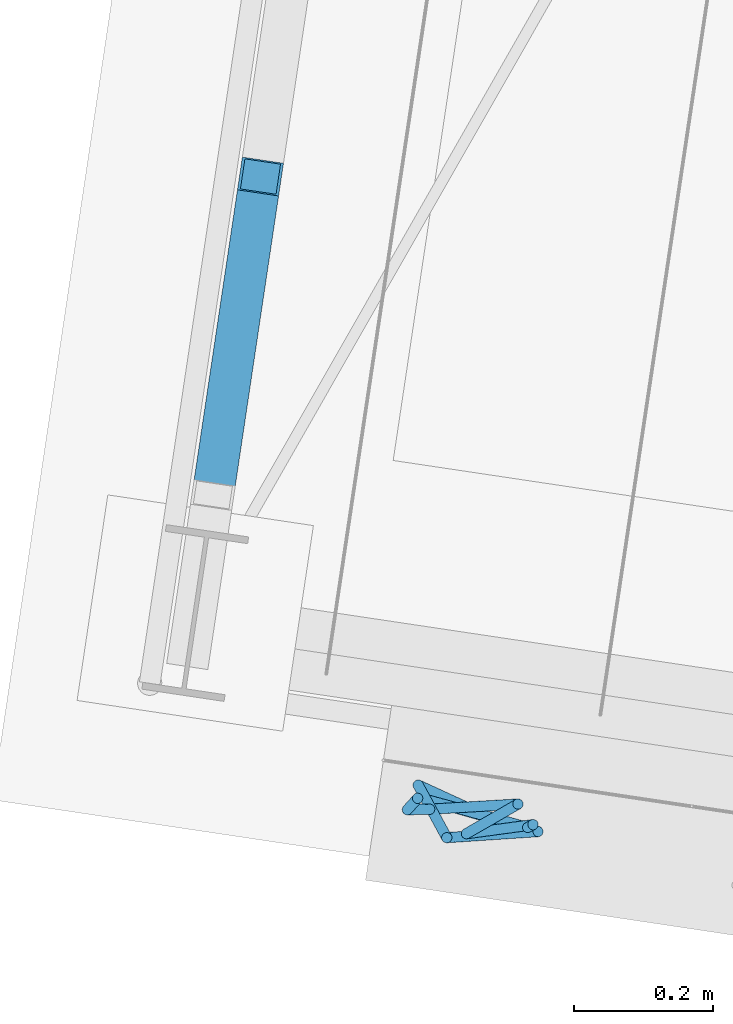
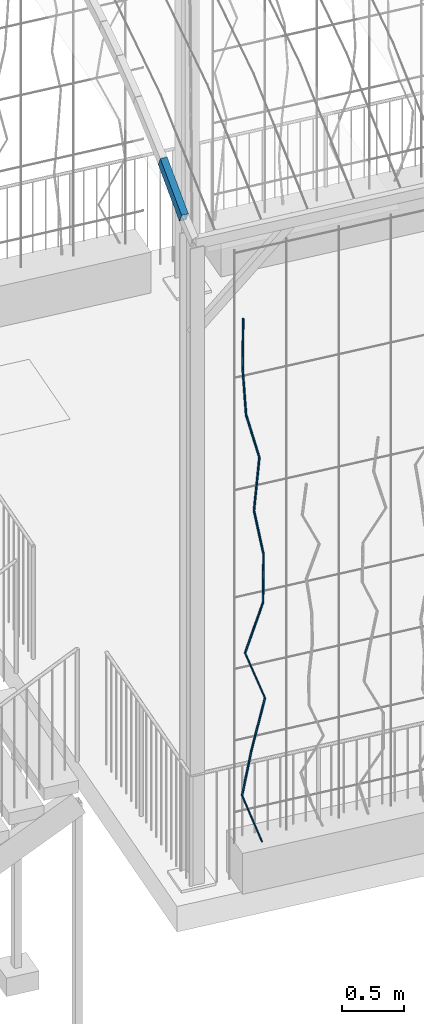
# One storey, part 107 of 143: 12 members, 2 elements without a shape of their own.
"""IFC4 building model written with IfcOpenShell, lengths in metres."""

from ifc_helpers import new_model, si_unit, direction, frame, origin_with_axes, place, context, subcontext, project, spatial, hollow_rectangle, circle, extrude, material, material_profile, profile_set, profile_usage, type_object, element, aggregate, save


model = new_model("IFC4")

# Units and contexts
model_context = context("Model", 3, precision=1e-05, world=origin_with_axes(), true_north=direction((0.0, 1.0)))
body_context = subcontext(model_context, "Body", "Model", "MODEL_VIEW")
ifc_project = project(units=[si_unit("VOLUMEUNIT", "CUBIC_METRE"), si_unit("LENGTHUNIT", "METRE"), si_unit("AREAUNIT", "SQUARE_METRE")], contexts=[model_context])

# Site, building, storey
site_placement = place(None, origin_with_axes())
site = spatial("IfcSite", under=ifc_project, at=site_placement, Name="Lares · Rua das Mercês · artigo 4771")
building_placement = place(site_placement, frame((15.0, 9.7, 15.8), z_axis=(0.0, 0.0, 1.0), x_axis=(0.989015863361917, -0.147809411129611, 0.0)))
building = spatial("IfcBuilding", under=site, at=building_placement, Name="Casa Sobreposta")
storey_placement = place(building_placement, origin_with_axes())
storey = spatial("IfcBuildingStorey", under=building, at=storey_placement, Name="00 · Habitação e estacionamento", Elevation=15.8)

# Assembly, member
assembly_1_placement = place(storey_placement, origin_with_axes())
assembly_1 = element("IfcElementAssembly", 1, at=assembly_1_placement, inside=storey, Name="Pérgola · prolongamento da estufa 6 m", ObjectType="PERGOLA_GREENHOUSE_EXTENSION", PredefinedType="USERDEFINED")
ifc_material_1 = material(Name="Aço pintado / Stahl lackiert", Category="steel")
ifc_material_profile_1 = material_profile(ifc_material_1, hollow_rectangle(XDim=0.06, YDim=0.1, WallThickness=0.004))
ifc_profile_set_1 = profile_set([ifc_material_profile_1], Name="RHS100x60x4")
ifc_profile_usage_1 = profile_usage(ifc_profile_set_1)
member_type_1 = type_object("IfcMemberType", Name="RHS100x60x4 / steel", PredefinedType="NOTDEFINED", material=ifc_profile_set_1)
member_1_placement = place(assembly_1_placement, frame((-6.0, -1.26765509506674, 6.32392631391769), z_axis=(0.0, 0.878851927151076, 0.477094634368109), x_axis=(1.0, 0.0, 0.0)))
member_1 = element("IfcMember", 2, at=member_1_placement, type_object=member_type_1, material=ifc_profile_usage_1, Name="Pérgola · arco contínuo com a estufa", context=body_context, shape_type="SweptSolid", body=[
    extrude(hollow_rectangle(XDim=0.06, YDim=0.1, WallThickness=0.004), origin_with_axes(), (0.0, 0.0, 1.0), 0.52863528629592),
])
aggregate(assembly_1, [member_1])

# Assembly, members
assembly_2_placement = place(storey_placement, origin_with_axes())
assembly_2 = element("IfcElementAssembly", 3, at=assembly_2_placement, inside=storey, Name="Fachada sul e pátio · estrutura e trepadeiras", ObjectType="LIVING_SHADE_TRELLIS", PredefinedType="USERDEFINED")
ifc_material_2 = material(Name="Ramos de trepadeiras", Category="wood")
ifc_material_profile_2 = material_profile(ifc_material_2, circle(Radius=0.0075))
ifc_profile_set_2 = profile_set([ifc_material_profile_2], Name="D0.015")
ifc_profile_usage_2 = profile_usage(ifc_profile_set_2)
member_type_2 = type_object("IfcMemberType", Name="D0.015 / vine_wood", PredefinedType="NOTDEFINED", material=ifc_profile_set_2)
member_2_placement = place(assembly_2_placement, frame((-5.48911948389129, -1.68313375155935, 0.35), z_axis=(-0.315042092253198, 0.0911891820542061, 0.944686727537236), x_axis=(0.278037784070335, 0.960570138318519, 0.0)))
member_2 = element("IfcMember", 4, at=member_2_placement, type_object=member_type_2, material=ifc_profile_usage_2, Name="Trepadeiras · ramo", context=body_context, shape_type="SweptSolid", body=[
    extrude(circle(Radius=0.0075), origin_with_axes(), (0.0, 0.0, 1.0), 0.495129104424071),
])
ifc_profile_usage_3 = profile_usage(ifc_profile_set_2)
member_3_placement = place(assembly_2_placement, frame((-5.64510599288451, -1.63798333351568, 0.817741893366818), z_axis=(0.109502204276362, -0.145033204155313, 0.983348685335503), x_axis=(-0.798074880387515, -0.602558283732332, 0.0)))
member_3 = element("IfcMember", 5, at=member_3_placement, type_object=member_type_2, material=ifc_profile_usage_3, Name="Trepadeiras · ramo", context=body_context, shape_type="SweptSolid", body=[
    extrude(circle(Radius=0.0075), origin_with_axes(), (0.0, 0.0, 1.0), 0.475662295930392),
])
ifc_profile_usage_4 = profile_usage(ifc_profile_set_2)
member_4_placement = place(assembly_2_placement, frame((-5.59301992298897, -1.70697016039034, 1.28548378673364), z_axis=(0.265195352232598, 0.0579298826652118, 0.962452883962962), x_axis=(0.213409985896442, -0.976962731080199, 0.0)))
member_4 = element("IfcMember", 6, at=member_4_placement, type_object=member_type_2, material=ifc_profile_usage_4, Name="Trepadeiras · ramo", context=body_context, shape_type="SweptSolid", body=[
    extrude(circle(Radius=0.0075), origin_with_axes(), (0.0, 0.0, 1.0), 0.485989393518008),
])
ifc_profile_usage_5 = profile_usage(ifc_profile_set_2)
member_5_placement = place(assembly_2_placement, frame((-5.46413779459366, -1.67881685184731, 1.75322568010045), z_axis=(-0.32848864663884, 0.0430845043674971, 0.943524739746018), x_axis=(0.130045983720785, 0.991507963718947, 0.0)))
member_5 = element("IfcMember", 7, at=member_5_placement, type_object=member_type_2, material=ifc_profile_usage_5, Name="Trepadeiras · ramo", context=body_context, shape_type="SweptSolid", body=[
    extrude(circle(Radius=0.0075), origin_with_axes(), (0.0, 0.0, 1.0), 0.495738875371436),
])
ifc_profile_usage_6 = profile_usage(ifc_profile_set_2)
member_6_placement = place(assembly_2_placement, frame((-5.62698238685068, -1.65745818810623, 2.22096757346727), z_axis=(0.300174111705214, -0.0360648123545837, 0.953202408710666), x_axis=(-0.119288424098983, -0.992859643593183, 0.0)))
member_6 = element("IfcMember", 8, at=member_6_placement, type_object=member_type_2, material=ifc_profile_usage_6, Name="Trepadeiras · ramo", context=body_context, shape_type="SweptSolid", body=[
    extrude(circle(Radius=0.0075), origin_with_axes(), (0.0, 0.0, 1.0), 0.490705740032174),
])
ifc_profile_usage_7 = profile_usage(ifc_profile_set_2)
member_7_placement = place(assembly_2_placement, frame((-5.47968522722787, -1.6751553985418, 2.68870946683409), z_axis=(0.0147543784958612, 0.0109734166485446, 0.999830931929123), x_axis=(0.999891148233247, -0.000161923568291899, -0.0147534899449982)))
member_7 = element("IfcMember", 9, at=member_7_placement, type_object=member_type_2, material=ifc_profile_usage_7, Name="Trepadeiras · ramo", context=body_context, shape_type="SweptSolid", body=[
    extrude(circle(Radius=0.0075), origin_with_axes(), (0.0, 0.0, 1.0), 0.467820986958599),
])
ifc_profile_usage_8 = profile_usage(ifc_profile_set_2)
member_8_placement = place(assembly_2_placement, frame((-5.47278281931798, -1.67002180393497, 3.15645136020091), z_axis=(-0.19496267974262, -0.0566235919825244, 0.979174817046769), x_axis=(-0.278907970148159, 0.960317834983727, 0.0)))
member_8 = element("IfcMember", 10, at=member_8_placement, type_object=member_type_2, material=ifc_profile_usage_8, Name="Trepadeiras · ramo", context=body_context, shape_type="SweptSolid", body=[
    extrude(circle(Radius=0.0075), origin_with_axes(), (0.0, 0.0, 1.0), 0.477689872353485),
])
ifc_profile_usage_9 = profile_usage(ifc_profile_set_2)
member_9_placement = place(assembly_2_placement, frame((-5.56591451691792, -1.6970703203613, 3.62419325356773), z_axis=(0.141678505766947, 0.112006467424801, 0.983555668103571), x_axis=(0.620172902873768, -0.784465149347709, 0.0)))
member_9 = element("IfcMember", 11, at=member_9_placement, type_object=member_type_2, material=ifc_profile_usage_9, Name="Trepadeiras · ramo", context=body_context, shape_type="SweptSolid", body=[
    extrude(circle(Radius=0.0075), origin_with_axes(), (0.0, 0.0, 1.0), 0.475562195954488),
])
ifc_profile_usage_10 = profile_usage(ifc_profile_set_2)
member_10_placement = place(assembly_2_placement, frame((-5.49853757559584, -1.64380427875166, 4.09193514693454), z_axis=(-0.257789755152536, -0.0541962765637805, 0.964679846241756), x_axis=(-0.205736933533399, 0.97860733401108, 0.0)))
member_10 = element("IfcMember", 12, at=member_10_placement, type_object=member_type_2, material=ifc_profile_usage_10, Name="Trepadeiras · ramo", context=body_context, shape_type="SweptSolid", body=[
    extrude(circle(Radius=0.0075), origin_with_axes(), (0.0, 0.0, 1.0), 0.484867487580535),
])
ifc_profile_usage_11 = profile_usage(ifc_profile_set_2)
member_11_placement = place(assembly_2_placement, frame((-5.62353144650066, -1.67008229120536, 4.55967704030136), z_axis=(-0.0676309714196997, -0.0113503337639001, 0.997645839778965), x_axis=(-0.165512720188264, 0.986207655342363, 0.0)))
member_11 = element("IfcMember", 13, at=member_11_placement, type_object=member_type_2, material=ifc_profile_usage_11, Name="Trepadeiras · ramo", context=body_context, shape_type="SweptSolid", body=[
    extrude(circle(Radius=0.0075), origin_with_axes(), (0.0, 0.0, 1.0), 0.468845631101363),
])
ifc_profile_usage_12 = profile_usage(ifc_profile_set_2)
member_12_placement = place(assembly_2_placement, frame((-5.65523993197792, -1.67540384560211, 5.02741893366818), z_axis=(0.0261045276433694, 0.0393084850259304, 0.99888607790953), x_axis=(0.833038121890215, -0.55321558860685, 0.0)))
member_12 = element("IfcMember", 14, at=member_12_placement, type_object=member_type_2, material=ifc_profile_usage_12, Name="Trepadeiras · ramo", context=body_context, shape_type="SweptSolid", body=[
    extrude(circle(Radius=0.0075), origin_with_axes(), (0.0, 0.0, 1.0), 0.468263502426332),
])
aggregate(assembly_2, [member_2, member_3, member_4, member_5, member_6, member_7, member_8, member_9, member_10, member_11, member_12])

save(model, "model.ifc")
